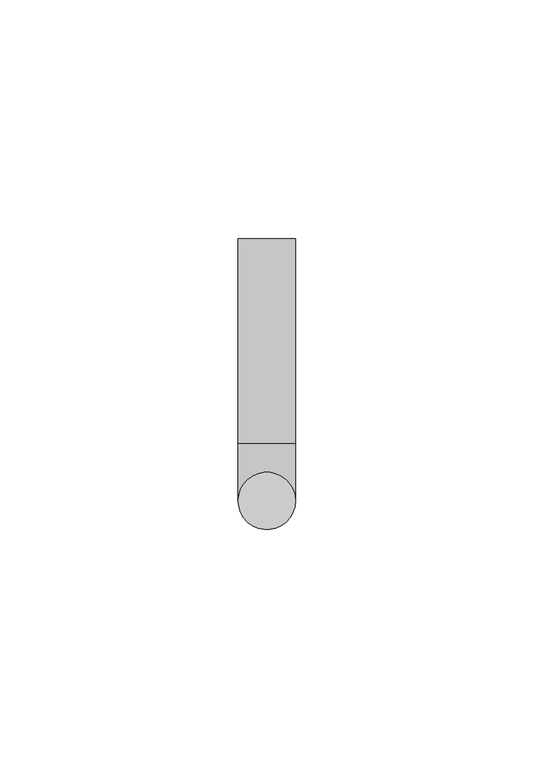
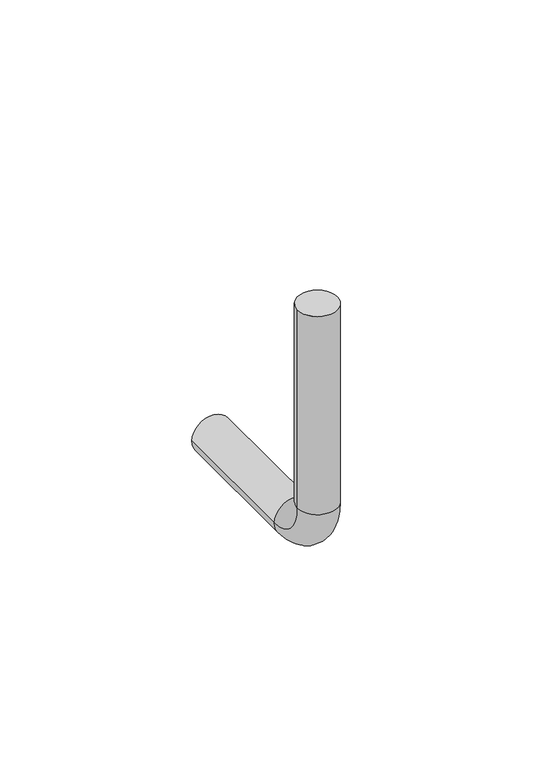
"""IFC4 building model written with IfcOpenShell, lengths in millimetres: proxy geometry, Soporte - Metal  : Soporte - Metal ."""

import ifcopenshell
import ifcopenshell.guid

model = None  # the IFC model being written
_history = None  # IfcOwnerHistory: only IFC2X3 demands one
_inside = {}  # id of a spatial element -> (the spatial element, [elements in it])
_under = {}  # id of a project, library or spatial element -> (it, [spatial elements below it])
_declared = {}  # id of a project -> (the project, [libraries it declares])
_typed = {}  # id of a type object -> (the type object, [elements of that type])
_made_of = {}  # id of a material, layer set ... -> (it, [elements and type objects made of it])


def new_model(schema):
    """Start an empty IFC model of exactly this schema.

    Asked for "IFC4X3", IfcOpenShell would pick the latest addendum, in which some entities
    have other attributes; the version numbers below select the first issue.
    IFC2X3 requires an IfcOwnerHistory on every rooted entity: one is made here for all.
    """
    global model, _history
    if schema == "IFC4X3":
        model = ifcopenshell.file(schema_version=(4, 3, 0, 0))
    else:
        model = ifcopenshell.file(schema=schema)
    _inside.clear()
    _under.clear()
    _declared.clear()
    _typed.clear()
    _made_of.clear()
    _history = None
    if model.schema == "IFC2X3":
        org = make("IfcOrganization", Name="unknown")
        user = make(
            "IfcPersonAndOrganization",
            ThePerson=make("IfcPerson", FamilyName="unknown"),
            TheOrganization=org,
        )
        app = make(
            "IfcApplication",
            ApplicationDeveloper=org,
            Version="unknown",
            ApplicationFullName="unknown",
            ApplicationIdentifier="unknown",
        )
        _history = make(
            "IfcOwnerHistory",
            OwningUser=user,
            OwningApplication=app,
            ChangeAction="ADDED",
            CreationDate=0,
        )
    return model


def make(cls, **values):
    """One entity of the class cls with the attributes given. An attribute that is None is left unset."""
    return model.create_entity(
        cls, **{name: value for name, value in values.items() if value is not None}
    )


def rooted(cls, **values):
    """An entity with a GlobalId (a new one), such as an element, a storey or a relation."""
    return make(cls, GlobalId=ifcopenshell.guid.new(), OwnerHistory=_history, **values)


def si_unit(unit_type, name, prefix=None):
    """IfcSIUnit, for example si_unit("LENGTHUNIT", "METRE", prefix="MILLI")."""
    return make("IfcSIUnit", UnitType=unit_type, Prefix=prefix, Name=name)


def assignment(units):
    """IfcUnitAssignment: the units of a project."""
    return None if units is None else make("IfcUnitAssignment", Units=units)


def point(xyz):
    """IfcCartesianPoint."""
    return None if xyz is None else make("IfcCartesianPoint", Coordinates=xyz)


def direction(xyz):
    """IfcDirection."""
    return None if xyz is None else make("IfcDirection", DirectionRatios=xyz)


def frame(location, z_axis=None, x_axis=None):
    """IfcAxis2Placement3D, a coordinate frame: its origin and axes. An axis left out is left unset."""
    return make(
        "IfcAxis2Placement3D",
        Location=point(location),
        Axis=direction(z_axis),
        RefDirection=direction(x_axis),
    )


def origin():
    """The frame at (0, 0, 0) with its axes left unset."""
    return frame((0.0, 0.0, 0.0))


def origin_with_axes():
    """The frame at (0, 0, 0) with the z axis (0, 0, 1) and the x axis (1, 0, 0) written out."""
    return frame((0.0, 0.0, 0.0), z_axis=(0.0, 0.0, 1.0), x_axis=(1.0, 0.0, 0.0))


def place(relative_to, where):
    """IfcLocalPlacement: puts the frame where relative to a parent placement (None: the world)."""
    return make(
        "IfcLocalPlacement", PlacementRelTo=relative_to, RelativePlacement=where
    )


def context(
    kind, dimensions, precision=None, world=None, true_north=None, identifier=None
):
    """IfcGeometricRepresentationContext, for example the 3D "Model" context."""
    return make(
        "IfcGeometricRepresentationContext",
        ContextIdentifier=identifier,
        ContextType=kind,
        CoordinateSpaceDimension=dimensions,
        Precision=precision,
        WorldCoordinateSystem=world,
        TrueNorth=true_north,
    )


def project(units=None, contexts=None):
    """IfcProject with its units and contexts."""
    return rooted(
        "IfcProject",
        Name="project",
        RepresentationContexts=contexts,
        UnitsInContext=assignment(units),
    )


def spatial(cls, under=None, at=None, **own):
    """A site, building, storey or space (cls), placed at a placement, below another one or the project."""
    s = rooted(cls, ObjectPlacement=at, **own)
    if under is not None:
        _under.setdefault(under.id(), (under, []))[1].append(s)
    return s


def circle_curve(where, radius):
    """IfcCircle in the frame where."""
    return make("IfcCircle", Position=where, Radius=radius)


def ellipse_curve(where, semi_axis1, semi_axis2):
    """IfcEllipse in the frame where."""
    return make(
        "IfcEllipse", Position=where, SemiAxis1=semi_axis1, SemiAxis2=semi_axis2
    )


def trimmed(basis, trim1, trim2, sense, master):
    """IfcTrimmedCurve: the piece of a basis curve between two trims."""
    return make(
        "IfcTrimmedCurve",
        BasisCurve=basis,
        Trim1=trim1,
        Trim2=trim2,
        SenseAgreement=sense,
        MasterRepresentation=master,
    )


def shape(context_of_items, identifier, shape_type, items):
    """IfcShapeRepresentation: the items that make up one representation, for example the "Body"."""
    return make(
        "IfcShapeRepresentation",
        ContextOfItems=context_of_items,
        RepresentationIdentifier=identifier,
        RepresentationType=shape_type,
        Items=items,
    )


def source(mapping_origin, context_of_items, identifier, shape_type, items):
    """IfcRepresentationMap: a shape defined once, which mapped items show again and again."""
    return make(
        "IfcRepresentationMap",
        MappingOrigin=mapping_origin,
        MappedRepresentation=shape(context_of_items, identifier, shape_type, items),
    )


def transform(
    local_origin,
    x_axis=None,
    y_axis=None,
    z_axis=None,
    scale=None,
    scale2=None,
    scale3=None,
    uniform=True,
):
    """IfcCartesianTransformationOperator3D, or its non-uniform kind. x_axis, y_axis, z_axis: its Axis1, 2, 3."""
    if uniform:
        return make(
            "IfcCartesianTransformationOperator3D",
            Axis1=direction(x_axis),
            Axis2=direction(y_axis),
            LocalOrigin=point(local_origin),
            Scale=scale,
            Axis3=direction(z_axis),
        )
    return make(
        "IfcCartesianTransformationOperator3DnonUniform",
        Axis1=direction(x_axis),
        Axis2=direction(y_axis),
        LocalOrigin=point(local_origin),
        Scale=scale,
        Axis3=direction(z_axis),
        Scale2=scale2,
        Scale3=scale3,
    )


def mapped(mapping_source, mapping_target):
    """IfcMappedItem: shows the shape of a source again, moved by a transform."""
    return make(
        "IfcMappedItem", MappingSource=mapping_source, MappingTarget=mapping_target
    )


def made_of(thing, what):
    """Note that an element or type object is made of a material, layer set ...; save() writes the relation."""
    if what is not None:
        _made_of.setdefault(what.id(), (what, []))[1].append(thing)
    return thing


def element(
    cls,
    number,
    at=None,
    inside=None,
    cuts=None,
    type_object=None,
    material=None,
    context=None,
    identifier="Body",
    shape_type=None,
    held_by="IfcProductDefinitionShape",
    body=None,
    shapes=None,
    **own,
):
    """One element of the class cls, such as IfcWall. Its Tag is "e" and its number.

    at: its placement. inside: the storey or other place that contains it. cuts: it is an
    opening in that element (IfcRelVoidsElement). A single representation is given by context,
    identifier, shape_type and body (its items); several are given by shapes. held_by: the class
    of the entity that holds the representations. save() writes the other relations.
    """
    e = rooted(cls, Tag="e%d" % number, ObjectPlacement=at, **own)
    if body is not None:
        shapes = [shape(context, identifier, shape_type, body)]
    if shapes is not None:
        e.Representation = make(held_by, Representations=shapes)
    if inside is not None:
        _inside.setdefault(inside.id(), (inside, []))[1].append(e)
    if cuts is not None:
        rooted(
            "IfcRelVoidsElement", RelatingBuildingElement=cuts, RelatedOpeningElement=e
        )
    if type_object is not None:
        _typed.setdefault(type_object.id(), (type_object, []))[1].append(e)
    return made_of(e, material)


def aggregate(whole, parts):
    """IfcRelAggregates: a whole, such as a stair, and the parts it consists of."""
    return rooted("IfcRelAggregates", RelatingObject=whole, RelatedObjects=parts)


def save(model, path):
    """Write the relations noted so far, then the file.

    IfcRelAggregates (storeys below a building ...), IfcRelContainedInSpatialStructure (elements
    in a storey), IfcRelDefinesByType, IfcRelAssociatesMaterial and IfcRelDeclares: one each for
    every whole, place, type object, material and project.
    """
    for whole, parts in _under.values():
        aggregate(whole, parts)
    for where, things in _inside.values():
        rooted(
            "IfcRelContainedInSpatialStructure",
            RelatedElements=things,
            RelatingStructure=where,
        )
    for kind, things in _typed.values():
        rooted("IfcRelDefinesByType", RelatedObjects=things, RelatingType=kind)
    for what, things in _made_of.values():
        rooted("IfcRelAssociatesMaterial", RelatedObjects=things, RelatingMaterial=what)
    for by, libraries in _declared.values():
        rooted("IfcRelDeclares", RelatingContext=by, RelatedDefinitions=libraries)
    model.write(path)


def plane_surface(at):
    """IfcPlane: the flat surface through the origin of the frame at, square to its z axis."""
    return make("IfcPlane", Position=at)


def cylinder_surface(at, radius):
    """IfcCylindricalSurface: all points at the distance radius from the z axis of the frame at."""
    return make("IfcCylindricalSurface", Position=at, Radius=radius)


def revolved_surface(curve, axis_point, axis_direction):
    """IfcSurfaceOfRevolution: the curve turned about the line through axis_point along axis_direction."""
    return make(
        "IfcSurfaceOfRevolution",
        SweptCurve=make("IfcArbitraryOpenProfileDef", ProfileType="CURVE", Curve=curve),
        AxisPosition=make("IfcAxis1Placement", Location=point(axis_point), Axis=direction(axis_direction)),
    )


def advanced_brep(points, edges, surfaces, faces):
    """IfcAdvancedBrep: a solid bounded by faces that lie on surfaces and meet in shared edges.

    An edge is (start, end): straight between two places in points (the first is 0);
    or (start, end, curve); or (start, end, curve, False) where it runs against its curve.
    A face is (place in surfaces, loops), or (place, loops, False) where it looks against
    its surface's normal. A loop lists edges by number (the first is 1), with a minus sign
    where the edge is run from its end to its start. The first loop is the outer one.
    """
    corners = [point(p) for p in points]
    vertices = [make("IfcVertexPoint", VertexGeometry=c) for c in corners]
    made = []
    for start, end, *more in edges:
        made.append(
            make(
                "IfcEdgeCurve",
                EdgeStart=vertices[start],
                EdgeEnd=vertices[end],
                EdgeGeometry=more[0] if more else make("IfcPolyline", Points=[corners[start], corners[end]]),
                SameSense=more[1] if len(more) > 1 else True,
            )
        )
    hull = []
    for where, loops, *sense in faces:
        bounds = []
        for j, loop in enumerate(loops):
            ring = [make("IfcOrientedEdge", EdgeElement=made[abs(k) - 1], Orientation=k > 0) for k in loop]
            bounds.append(
                make(
                    "IfcFaceOuterBound" if j == 0 else "IfcFaceBound",
                    Bound=make("IfcEdgeLoop", EdgeList=ring),
                    Orientation=True,
                )
            )
        hull.append(make("IfcAdvancedFace", Bounds=bounds, FaceSurface=surfaces[where], SameSense=sense[0] if sense else True))
    return make("IfcAdvancedBrep", Outer=make("IfcClosedShell", CfsFaces=hull))


def building_element_proxy_21797a3b(model_context):
    return source(origin(), model_context, "Body", "AdvancedBrep", [
        advanced_brep(
        [(-6.0, 0.0, 0.0), (6.0, 0.0, 0.0), (-6.0, 0.0, -63.0), (6.0, 0.0, -63.0), (6.0, 12.0, -75.0), (-6.0, 12.0, -75.0), (-6.0, 55.0, -75.0), (6.0, 55.0, -75.0)],
        [
            (0, 1, circle_curve(origin_with_axes(), 6.0)),
            (1, 0, circle_curve(origin_with_axes(), 6.0)),
            (0, 2),
            (2, 3, circle_curve(frame((0.0, 0.0, -63.0), z_axis=(0.0, 0.0, 1.0), x_axis=(1.0, 0.0, 0.0)), 6.0)),
            (3, 1),
            (3, 2, circle_curve(frame((0.0, 0.0, -63.0), z_axis=(0.0, 0.0, 1.0), x_axis=(1.0, 0.0, 0.0)), 6.0)),
            (4, 3, circle_curve(frame((6.0, 12.0, -63.0), z_axis=(-1.0, 0.0, 0.0), x_axis=(0.0, -1.0, 0.0)), 12.0)),
            (2, 5, circle_curve(frame((-6.0, 12.0, -63.0), z_axis=(1.0, 0.0, 0.0), x_axis=(0.0, -1.0, 0.0)), 12.0)),
            (5, 4, circle_curve(frame((0.0, 12.0, -75.0), z_axis=(0.0, -1.0, 0.0), x_axis=(1.0, 0.0, 0.0)), 6.0)),
            (4, 5, circle_curve(frame((0.0, 12.0, -75.0), z_axis=(0.0, -1.0, 0.0), x_axis=(1.0, 0.0, 0.0)), 6.0)),
            (6, 7, circle_curve(frame((0.0, 55.0, -75.0), z_axis=(0.0, 1.0, 0.0), x_axis=(1.0, 0.0, 0.0)), 6.0)),
            (7, 6, circle_curve(frame((0.0, 55.0, -75.0), z_axis=(0.0, 1.0, 0.0), x_axis=(1.0, 0.0, 0.0)), 6.0)),
            (5, 6),
            (7, 4),
        ],
        [
            plane_surface(origin_with_axes()),
            cylinder_surface(origin_with_axes(), 6.0),
            revolved_surface(trimmed(ellipse_curve(frame((0.0, 0.0, -63.0), z_axis=(0.0, 0.0, 1.0), x_axis=(1.0, 0.0, 0.0)), 6.0, 6.0), [point((-6.0, 0.0, -63.0))], [point((6.0, 0.0, -63.0))], True, "CARTESIAN"), (0.0, 12.0, -63.0), (1.0, 0.0, 0.0)),
            revolved_surface(trimmed(ellipse_curve(frame((0.0, 0.0, -63.0), z_axis=(0.0, 0.0, 1.0), x_axis=(1.0, 0.0, 0.0)), 6.0, 6.0), [point((6.0, 0.0, -63.0))], [point((-6.0, 0.0, -63.0))], True, "CARTESIAN"), (0.0, 12.0, -63.0), (1.0, 0.0, 0.0)),
            plane_surface(frame((0.0, 55.0, -75.0), z_axis=(0.0, 1.0, 0.0), x_axis=(1.0, 0.0, 0.0))),
            cylinder_surface(frame((0.0, 12.0, -75.0), z_axis=(0.0, -1.0, 0.0), x_axis=(1.0, 0.0, 0.0)), 6.0),
        ],
        [
            (0, [[1, 2]]),
            (1, [[-1, 3, 4, 5]]),
            (1, [[-2, -5, 6, -3]]),
            (2, [[7, -4, 8, 9]]),
            (3, [[-8, -6, -7, 10]]),
            (4, [[11, 12]]),
            (5, [[-9, 13, -12, 14]]),
            (5, [[-10, -14, -11, -13]]),
        ],
    ),
    ])


if __name__ == "__main__":
    model = new_model("IFC4")
    model_context = context("Model", 3, world=origin())
    ifc_project = project(units=[si_unit("LENGTHUNIT", "METRE", prefix="MILLI")], contexts=[model_context])
    site = spatial("IfcSite", under=ifc_project)
    building = spatial("IfcBuilding", under=site)
    placement = place(None, origin())
    building_element_proxy_shape = building_element_proxy_21797a3b(model_context)
    element("IfcBuildingElementProxy", 1, Name="Soporte - Metal  : Soporte - Metal ", ObjectType="Soporte - Metal  : Soporte - Metal ", at=placement, inside=building, context=model_context, shape_type="MappedRepresentation", body=[
        mapped(building_element_proxy_shape, transform((0.0, 0.0, 0.0), x_axis=(1.0, 0.0, 0.0), y_axis=(0.0, 1.0, 0.0), z_axis=(0.0, 0.0, 1.0))),
    ])
    save(model, "model.ifc")
